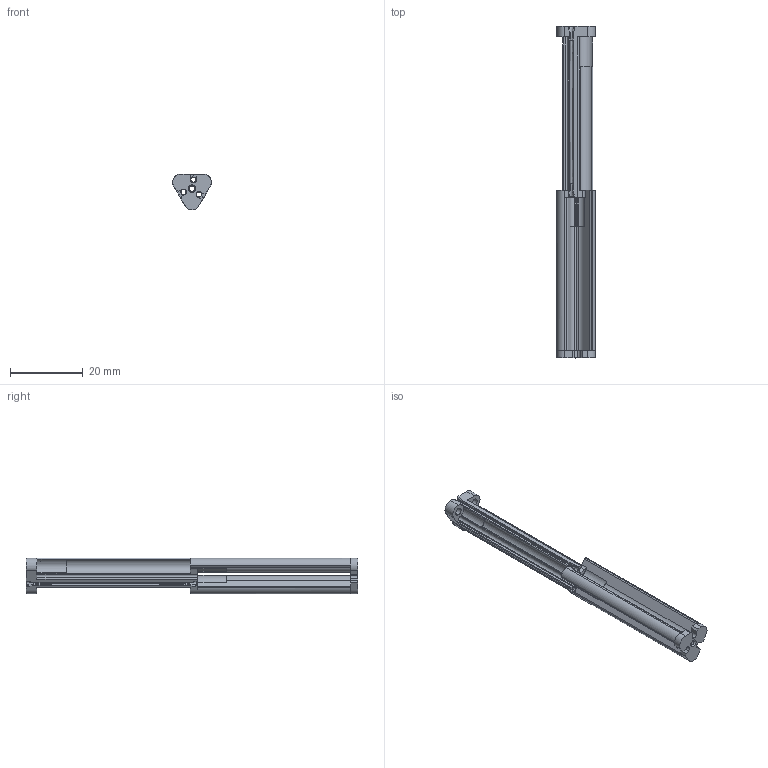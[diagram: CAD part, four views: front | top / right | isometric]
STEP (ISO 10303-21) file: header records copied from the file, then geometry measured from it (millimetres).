
FILE_DESCRIPTION (( 'STEP AP214' ), '1' );
FILE_NAME ('TRL-0034-A.STEP', '2021-06-25T18:29:05', ( '' ), ( '' ), 'SwSTEP 2.0', 'SolidWorks 2016', '' );
FILE_SCHEMA (( 'AUTOMOTIVE_DESIGN' ));
Length unit declared in the file: millimetre
Products named in the file (1): TRL-0034-A
Bounding box: 10.6 x 91 x 9.77 mm (x, y, z)
Volume: 2198.3 mm3; surface area: 4135.2 mm2
Topology: 1 solids, 1 shells, 239 faces, 660 edges, 419 vertices
Faces by surface type: cylinder 80, plane 77, bspline 72, torus 8, cone 2
Entity records: 13689 total; most frequent: CARTESIAN_POINT 8058, ORIENTED_EDGE 1320, DIRECTION 957, EDGE_CURVE 660, VERTEX_POINT 419, AXIS2_PLACEMENT_3D 350, VECTOR 257, LINE 257
